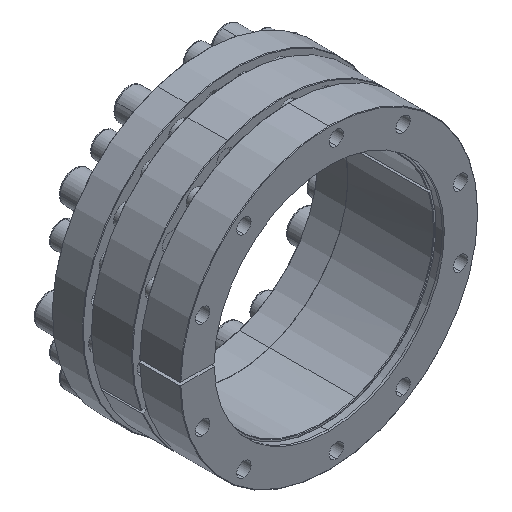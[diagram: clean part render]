
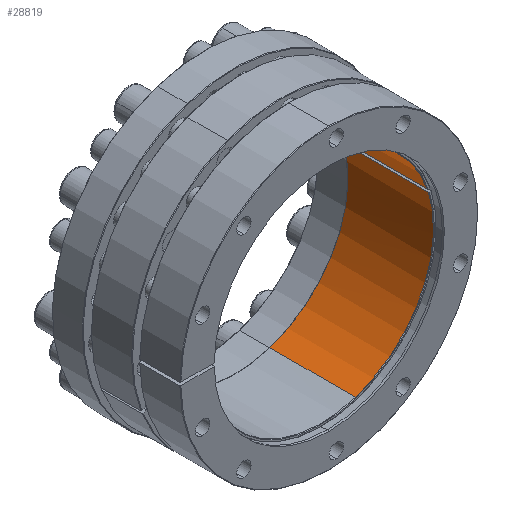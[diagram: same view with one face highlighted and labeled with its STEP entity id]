
A CAD part, isometric view. The second image highlights one B-rep face of the part: STEP entity #28819.
In plain terms, the highlighted cylindrical face has radius 110 mm (diameter 220 mm), a partial arc.
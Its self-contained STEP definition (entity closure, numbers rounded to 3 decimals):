
#434 = LINE ( 'NONE', #30246, #25869 ) ;
#1212 = EDGE_CURVE ( 'NONE', #29754, #12649, #434, .T. ) ;
#2131 = AXIS2_PLACEMENT_3D ( 'NONE', #23815, #9080, #26270 ) ;
#2293 = VECTOR ( 'NONE', #27419, 1000. ) ;
#2473 = VERTEX_POINT ( 'NONE', #22306 ) ;
#3236 = DIRECTION ( 'NONE',  ( 0., -1., 0. ) ) ;
#3380 = CYLINDRICAL_SURFACE ( 'NONE', #6190, 110. ) ;
#4131 = ORIENTED_EDGE ( 'NONE', *, *, #9449, .T. ) ;
#4147 = VERTEX_POINT ( 'NONE', #12331 ) ;
#4519 = ORIENTED_EDGE ( 'NONE', *, *, #20681, .T. ) ;
#4911 = VERTEX_POINT ( 'NONE', #10792 ) ;
#5105 = VECTOR ( 'NONE', #20801, 1000. ) ;
#5160 = DIRECTION ( 'NONE',  ( 0., 1., 0. ) ) ;
#6190 = AXIS2_PLACEMENT_3D ( 'NONE', #21803, #29123, #7063 ) ;
#6859 = ORIENTED_EDGE ( 'NONE', *, *, #21931, .F. ) ;
#7063 = DIRECTION ( 'NONE',  ( -0.309, 0., 0.951 ) ) ;
#7561 = VERTEX_POINT ( 'NONE', #27746 ) ;
#8566 = DIRECTION ( 'NONE',  ( 0., -1., 0. ) ) ;
#9080 = DIRECTION ( 'NONE',  ( 0., -1., 0. ) ) ;
#9449 = EDGE_CURVE ( 'NONE', #30459, #4147, #10028, .T. ) ;
#9576 = EDGE_CURVE ( 'NONE', #25783, #29754, #22339, .T. ) ;
#9957 = CARTESIAN_POINT ( 'NONE',  ( 33.992, 99.467, -104.616 ) ) ;
#9974 = DIRECTION ( 'NONE',  ( 0., 1., 0. ) ) ;
#10028 = CIRCLE ( 'NONE', #15754, 110. ) ;
#10236 = CARTESIAN_POINT ( 'NONE',  ( -33.992, 91.999, 104.616 ) ) ;
#10750 = CIRCLE ( 'NONE', #10820, 110. ) ;
#10792 = CARTESIAN_POINT ( 'NONE',  ( 104.062, 8.499, 35.652 ) ) ;
#10820 = AXIS2_PLACEMENT_3D ( 'NONE', #23284, #8566, #25763 ) ;
#12276 = FACE_OUTER_BOUND ( 'NONE', #19752, .T. ) ;
#12331 = CARTESIAN_POINT ( 'NONE',  ( 33.992, 91.999, -104.616 ) ) ;
#12649 = VERTEX_POINT ( 'NONE', #24405 ) ;
#12725 = CARTESIAN_POINT ( 'NONE',  ( -33.992, 99.467, 104.616 ) ) ;
#12776 = CARTESIAN_POINT ( 'NONE',  ( 104.062, 91.499, 35.652 ) ) ;
#12995 = DIRECTION ( 'NONE',  ( 0., 1., 0. ) ) ;
#13375 = VECTOR ( 'NONE', #5160, 1000. ) ;
#13482 = CIRCLE ( 'NONE', #2131, 110. ) ;
#15434 = LINE ( 'NONE', #12725, #2293 ) ;
#15754 = AXIS2_PLACEMENT_3D ( 'NONE', #24687, #9974, #27156 ) ;
#16189 = ORIENTED_EDGE ( 'NONE', *, *, #29577, .T. ) ;
#18245 = LINE ( 'NONE', #28219, #5105 ) ;
#18272 = ORIENTED_EDGE ( 'NONE', *, *, #1212, .F. ) ;
#18430 = AXIS2_PLACEMENT_3D ( 'NONE', #27679, #12995, #30151 ) ;
#19080 = CARTESIAN_POINT ( 'NONE',  ( 105.144, 91.499, 32.323 ) ) ;
#19752 = EDGE_LOOP ( 'NONE', ( #31065, #28417, #18272, #30112, #6859, #16189, #4519, #4131 ) ) ;
#20681 = EDGE_CURVE ( 'NONE', #2473, #30459, #15434, .T. ) ;
#20801 = DIRECTION ( 'NONE',  ( 0., 1., 0. ) ) ;
#21803 = CARTESIAN_POINT ( 'NONE',  ( 0., 99.467, 0. ) ) ;
#21931 = EDGE_CURVE ( 'NONE', #4911, #25783, #18245, .T. ) ;
#22306 = CARTESIAN_POINT ( 'NONE',  ( -33.992, 8.499, 104.616 ) ) ;
#22339 = CIRCLE ( 'NONE', #18430, 110. ) ;
#23284 = CARTESIAN_POINT ( 'NONE',  ( 0., 8.499, 0. ) ) ;
#23815 = CARTESIAN_POINT ( 'NONE',  ( 0., 8.499, 0. ) ) ;
#24123 = EDGE_CURVE ( 'NONE', #7561, #4147, #26417, .T. ) ;
#24405 = CARTESIAN_POINT ( 'NONE',  ( 105.144, 8.499, 32.323 ) ) ;
#24687 = CARTESIAN_POINT ( 'NONE',  ( 0., 91.999, 0. ) ) ;
#25763 = DIRECTION ( 'NONE',  ( 0.309, 0., -0.951 ) ) ;
#25783 = VERTEX_POINT ( 'NONE', #12776 ) ;
#25869 = VECTOR ( 'NONE', #3236, 1000. ) ;
#26076 = EDGE_CURVE ( 'NONE', #7561, #12649, #13482, .T. ) ;
#26270 = DIRECTION ( 'NONE',  ( 0.309, 0., -0.951 ) ) ;
#26417 = LINE ( 'NONE', #9957, #13375 ) ;
#27156 = DIRECTION ( 'NONE',  ( -0.309, 0., 0.951 ) ) ;
#27419 = DIRECTION ( 'NONE',  ( 0., 1., 0. ) ) ;
#27679 = CARTESIAN_POINT ( 'NONE',  ( 0., 91.499, 0. ) ) ;
#27746 = CARTESIAN_POINT ( 'NONE',  ( 33.992, 8.499, -104.616 ) ) ;
#28219 = CARTESIAN_POINT ( 'NONE',  ( 104.062, 99.467, 35.652 ) ) ;
#28417 = ORIENTED_EDGE ( 'NONE', *, *, #26076, .T. ) ;
#28819 = ADVANCED_FACE ( 'NONE', ( #12276 ), #3380, .F. ) ;
#29123 = DIRECTION ( 'NONE',  ( 0., 1., 0. ) ) ;
#29577 = EDGE_CURVE ( 'NONE', #4911, #2473, #10750, .T. ) ;
#29754 = VERTEX_POINT ( 'NONE', #19080 ) ;
#30112 = ORIENTED_EDGE ( 'NONE', *, *, #9576, .F. ) ;
#30151 = DIRECTION ( 'NONE',  ( -0.309, 0., 0.951 ) ) ;
#30246 = CARTESIAN_POINT ( 'NONE',  ( 105.144, 99.467, 32.323 ) ) ;
#30459 = VERTEX_POINT ( 'NONE', #10236 ) ;
#31065 = ORIENTED_EDGE ( 'NONE', *, *, #24123, .F. ) ;
